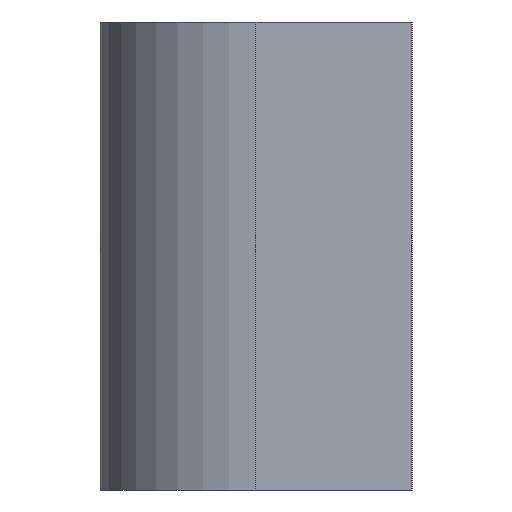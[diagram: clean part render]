
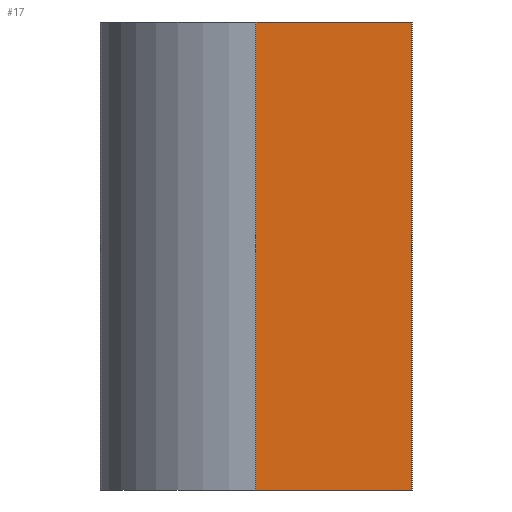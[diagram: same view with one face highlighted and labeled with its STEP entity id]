
A CAD part, left-side view. The second image highlights one B-rep face of the part: STEP entity #17.
In plain terms, the highlighted planar face has unit normal (-1, 0, 0).
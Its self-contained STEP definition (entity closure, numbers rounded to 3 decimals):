
#17 = ADVANCED_FACE('',(#18),#32,.F.);
#18 = FACE_BOUND('',#19,.F.);
#19 = EDGE_LOOP('',(#20,#55,#83,#111));
#20 = ORIENTED_EDGE('',*,*,#21,.F.);
#21 = EDGE_CURVE('',#22,#24,#26,.T.);
#22 = VERTEX_POINT('',#23);
#23 = CARTESIAN_POINT('',(-180.,-96.613,14.));
#24 = VERTEX_POINT('',#25);
#25 = CARTESIAN_POINT('',(-180.,-96.613,23.));
#26 = SURFACE_CURVE('',#27,(#31,#43),.PCURVE_S1.);
#27 = LINE('',#28,#29);
#28 = CARTESIAN_POINT('',(-180.,-96.613,14.));
#29 = VECTOR('',#30,1.);
#30 = DIRECTION('',(0.,0.,1.));
#31 = PCURVE('',#32,#37);
#32 = PLANE('',#33);
#33 = AXIS2_PLACEMENT_3D('',#34,#35,#36);
#34 = CARTESIAN_POINT('',(-180.,-96.613,14.));
#35 = DIRECTION('',(1.,0.,-0.));
#36 = DIRECTION('',(0.,0.,1.));
#37 = DEFINITIONAL_REPRESENTATION('',(#38),#42);
#38 = LINE('',#39,#40);
#39 = CARTESIAN_POINT('',(0.,0.));
#40 = VECTOR('',#41,1.);
#41 = DIRECTION('',(1.,0.));
#42 = ( GEOMETRIC_REPRESENTATION_CONTEXT(2) 
PARAMETRIC_REPRESENTATION_CONTEXT() REPRESENTATION_CONTEXT('2D SPACE',''
  ) );
#43 = PCURVE('',#44,#49);
#44 = PLANE('',#45);
#45 = AXIS2_PLACEMENT_3D('',#46,#47,#48);
#46 = CARTESIAN_POINT('',(-180.,-96.613,14.));
#47 = DIRECTION('',(-0.,1.,0.));
#48 = DIRECTION('',(0.,0.,1.));
#49 = DEFINITIONAL_REPRESENTATION('',(#50),#54);
#50 = LINE('',#51,#52);
#51 = CARTESIAN_POINT('',(0.,0.));
#52 = VECTOR('',#53,1.);
#53 = DIRECTION('',(1.,0.));
#54 = ( GEOMETRIC_REPRESENTATION_CONTEXT(2) 
PARAMETRIC_REPRESENTATION_CONTEXT() REPRESENTATION_CONTEXT('2D SPACE',''
  ) );
#55 = ORIENTED_EDGE('',*,*,#56,.T.);
#56 = EDGE_CURVE('',#22,#57,#59,.T.);
#57 = VERTEX_POINT('',#58);
#58 = CARTESIAN_POINT('',(-180.,-93.613,14.));
#59 = SURFACE_CURVE('',#60,(#64,#71),.PCURVE_S1.);
#60 = LINE('',#61,#62);
#61 = CARTESIAN_POINT('',(-180.,-96.613,14.));
#62 = VECTOR('',#63,1.);
#63 = DIRECTION('',(-0.,1.,0.));
#64 = PCURVE('',#32,#65);
#65 = DEFINITIONAL_REPRESENTATION('',(#66),#70);
#66 = LINE('',#67,#68);
#67 = CARTESIAN_POINT('',(0.,0.));
#68 = VECTOR('',#69,1.);
#69 = DIRECTION('',(0.,-1.));
#70 = ( GEOMETRIC_REPRESENTATION_CONTEXT(2) 
PARAMETRIC_REPRESENTATION_CONTEXT() REPRESENTATION_CONTEXT('2D SPACE',''
  ) );
#71 = PCURVE('',#72,#77);
#72 = PLANE('',#73);
#73 = AXIS2_PLACEMENT_3D('',#74,#75,#76);
#74 = CARTESIAN_POINT('',(-180.,-96.613,14.));
#75 = DIRECTION('',(0.,0.,1.));
#76 = DIRECTION('',(1.,0.,-0.));
#77 = DEFINITIONAL_REPRESENTATION('',(#78),#82);
#78 = LINE('',#79,#80);
#79 = CARTESIAN_POINT('',(0.,0.));
#80 = VECTOR('',#81,1.);
#81 = DIRECTION('',(0.,1.));
#82 = ( GEOMETRIC_REPRESENTATION_CONTEXT(2) 
PARAMETRIC_REPRESENTATION_CONTEXT() REPRESENTATION_CONTEXT('2D SPACE',''
  ) );
#83 = ORIENTED_EDGE('',*,*,#84,.T.);
#84 = EDGE_CURVE('',#57,#85,#87,.T.);
#85 = VERTEX_POINT('',#86);
#86 = CARTESIAN_POINT('',(-180.,-93.613,23.));
#87 = SURFACE_CURVE('',#88,(#92,#99),.PCURVE_S1.);
#88 = LINE('',#89,#90);
#89 = CARTESIAN_POINT('',(-180.,-93.613,14.));
#90 = VECTOR('',#91,1.);
#91 = DIRECTION('',(0.,0.,1.));
#92 = PCURVE('',#32,#93);
#93 = DEFINITIONAL_REPRESENTATION('',(#94),#98);
#94 = LINE('',#95,#96);
#95 = CARTESIAN_POINT('',(0.,-3.));
#96 = VECTOR('',#97,1.);
#97 = DIRECTION('',(1.,0.));
#98 = ( GEOMETRIC_REPRESENTATION_CONTEXT(2) 
PARAMETRIC_REPRESENTATION_CONTEXT() REPRESENTATION_CONTEXT('2D SPACE',''
  ) );
#99 = PCURVE('',#100,#105);
#100 = PLANE('',#101);
#101 = AXIS2_PLACEMENT_3D('',#102,#103,#104);
#102 = CARTESIAN_POINT('',(-180.,-93.613,14.));
#103 = DIRECTION('',(-0.,1.,0.));
#104 = DIRECTION('',(0.,0.,1.));
#105 = DEFINITIONAL_REPRESENTATION('',(#106),#110);
#106 = LINE('',#107,#108);
#107 = CARTESIAN_POINT('',(0.,0.));
#108 = VECTOR('',#109,1.);
#109 = DIRECTION('',(1.,0.));
#110 = ( GEOMETRIC_REPRESENTATION_CONTEXT(2) 
PARAMETRIC_REPRESENTATION_CONTEXT() REPRESENTATION_CONTEXT('2D SPACE',''
  ) );
#111 = ORIENTED_EDGE('',*,*,#112,.F.);
#112 = EDGE_CURVE('',#24,#85,#113,.T.);
#113 = SURFACE_CURVE('',#114,(#118,#125),.PCURVE_S1.);
#114 = LINE('',#115,#116);
#115 = CARTESIAN_POINT('',(-180.,-96.613,23.));
#116 = VECTOR('',#117,1.);
#117 = DIRECTION('',(-0.,1.,0.));
#118 = PCURVE('',#32,#119);
#119 = DEFINITIONAL_REPRESENTATION('',(#120),#124);
#120 = LINE('',#121,#122);
#121 = CARTESIAN_POINT('',(9.,0.));
#122 = VECTOR('',#123,1.);
#123 = DIRECTION('',(0.,-1.));
#124 = ( GEOMETRIC_REPRESENTATION_CONTEXT(2) 
PARAMETRIC_REPRESENTATION_CONTEXT() REPRESENTATION_CONTEXT('2D SPACE',''
  ) );
#125 = PCURVE('',#126,#131);
#126 = PLANE('',#127);
#127 = AXIS2_PLACEMENT_3D('',#128,#129,#130);
#128 = CARTESIAN_POINT('',(-180.,-96.613,23.));
#129 = DIRECTION('',(0.,0.,1.));
#130 = DIRECTION('',(1.,0.,-0.));
#131 = DEFINITIONAL_REPRESENTATION('',(#132),#136);
#132 = LINE('',#133,#134);
#133 = CARTESIAN_POINT('',(0.,0.));
#134 = VECTOR('',#135,1.);
#135 = DIRECTION('',(0.,1.));
#136 = ( GEOMETRIC_REPRESENTATION_CONTEXT(2) 
PARAMETRIC_REPRESENTATION_CONTEXT() REPRESENTATION_CONTEXT('2D SPACE',''
  ) );
